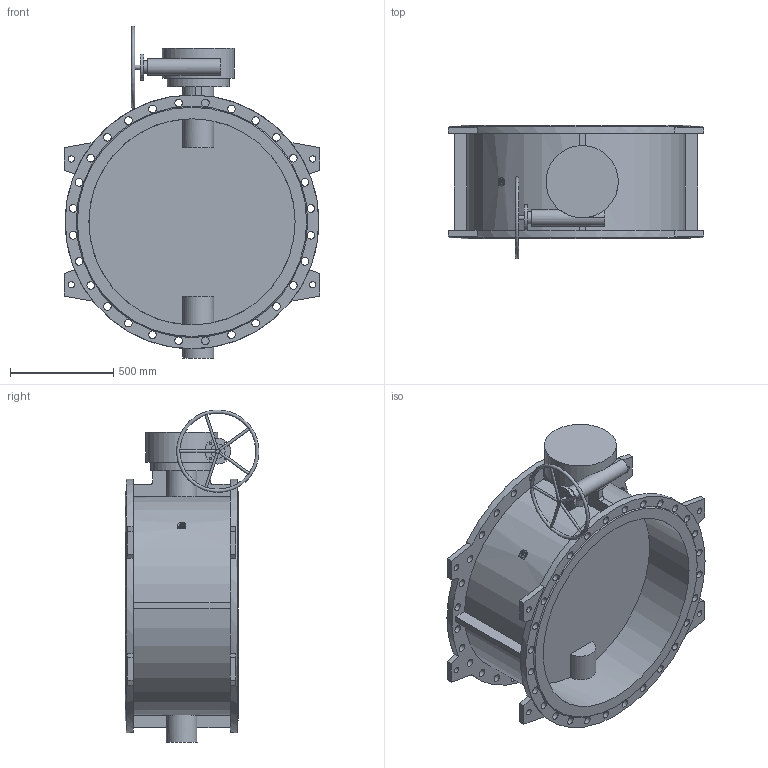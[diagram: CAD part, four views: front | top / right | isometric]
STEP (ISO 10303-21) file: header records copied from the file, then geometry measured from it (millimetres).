
FILE_DESCRIPTION(('STEP AP203'), '1');
FILE_NAME('Çàòâîð 023F.Z DN1000 PN10_ìàõ', '', ('UNSPECIFIED'), ('UNSPECIFIED'), 'ASCON STEP Converter 1.6', 'ASCON Math Kernel', '');
FILE_SCHEMA(('CONFIG_CONTROL_DESIGN'));
Length unit declared in the file: millimetre
Bounding box: 1240 x 649.56 x 1609.6 mm (x, y, z)
Volume: 167596664.8 mm3; surface area: 7533048.6 mm2
Topology: 1 solids, 1 shells, 221 faces, 576 edges, 383 vertices
Faces by surface type: cylinder 120, plane 98, cone 2, torus 1
Full cylindrical faces by diameter (mm): 12 x9, 14 x8, 18 x8, 20 x2, 30 x8, 37 x56, 60 x1, 70 x1, 80 x1, 125 x1, 150 x1, 300 x1, 350 x1, 1000 x2, 1230 x2
Entity records: 11549 total; most frequent: CARTESIAN_POINT 4331, DIRECTION 1103, ORIENTED_EDGE 934, EDGE_LOOP 496, EDGE_CURVE 467, AXIS2_PLACEMENT_3D 461, VERTEX_POINT 381, FACE_BOUND 300
